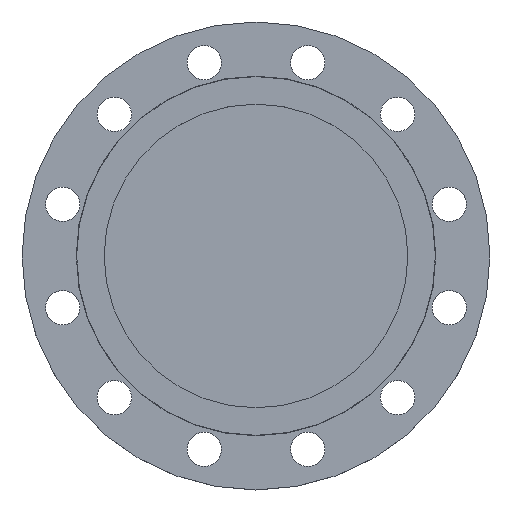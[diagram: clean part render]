
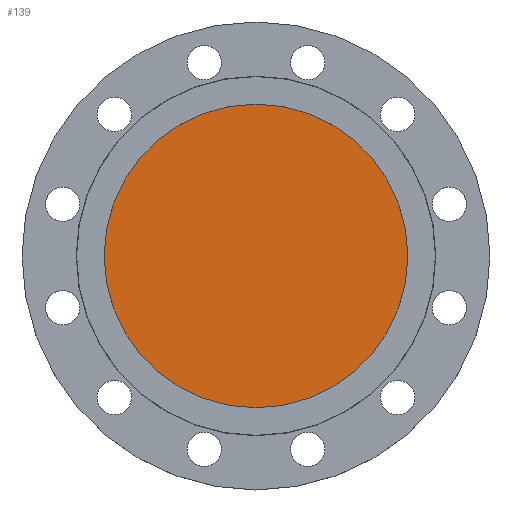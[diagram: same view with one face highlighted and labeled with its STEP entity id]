
A CAD part, top view. The second image highlights one B-rep face of the part: STEP entity #139.
In plain terms, the highlighted planar face has unit normal (0, 0, 1).
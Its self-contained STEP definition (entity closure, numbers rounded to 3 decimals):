
#139 = ADVANCED_FACE ( 'NONE', ( #918 ), #916, .T. ) ;
#198 = CARTESIAN_POINT ( 'NONE',  ( -146., 0., -5. ) ) ;
#247 = DIRECTION ( 'NONE',  ( -1., 0., 0. ) ) ;
#248 = DIRECTION ( 'NONE',  ( 0., 0., -1. ) ) ;
#249 = CARTESIAN_POINT ( 'NONE',  ( 0., 0., -5. ) ) ;
#285 = AXIS2_PLACEMENT_3D ( 'NONE', #915, #913, #910 ) ;
#394 = CARTESIAN_POINT ( 'NONE',  ( 146., 0., -5. ) ) ;
#487 = DIRECTION ( 'NONE',  ( -1., 0., 0. ) ) ;
#488 = DIRECTION ( 'NONE',  ( 0., 0., -1. ) ) ;
#491 = CARTESIAN_POINT ( 'NONE',  ( 0., 0., -5. ) ) ;
#891 = AXIS2_PLACEMENT_3D ( 'NONE', #249, #248, #247 ) ;
#910 = DIRECTION ( 'NONE',  ( 1., 0., 0. ) ) ;
#913 = DIRECTION ( 'NONE',  ( 0., 0., 1. ) ) ;
#915 = CARTESIAN_POINT ( 'NONE',  ( 0., 0., -5. ) ) ;
#916 = PLANE ( 'NONE',  #285 ) ;
#918 = FACE_OUTER_BOUND ( 'NONE', #1412, .T. ) ;
#933 = EDGE_CURVE ( 'NONE', #1119, #1289, #1095, .T. ) ;
#995 = ORIENTED_EDGE ( 'NONE', *, *, #1267, .F. ) ;
#1001 = ORIENTED_EDGE ( 'NONE', *, *, #933, .F. ) ;
#1095 = CIRCLE ( 'NONE', #1355, 146. ) ;
#1119 = VERTEX_POINT ( 'NONE', #394 ) ;
#1261 = CIRCLE ( 'NONE', #891, 146. ) ;
#1267 = EDGE_CURVE ( 'NONE', #1289, #1119, #1261, .T. ) ;
#1289 = VERTEX_POINT ( 'NONE', #198 ) ;
#1355 = AXIS2_PLACEMENT_3D ( 'NONE', #491, #488, #487 ) ;
#1412 = EDGE_LOOP ( 'NONE', ( #995, #1001 ) ) ;
